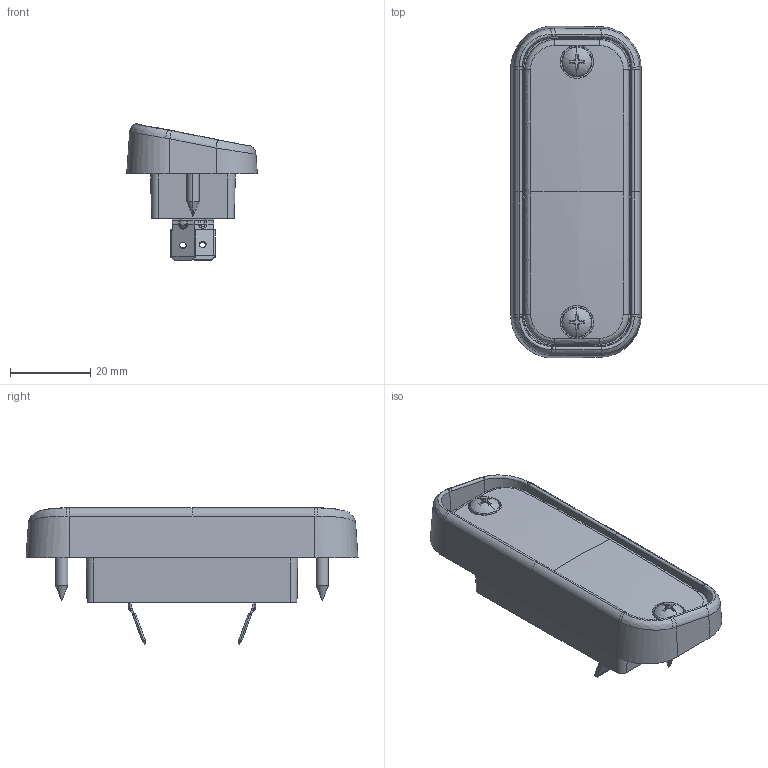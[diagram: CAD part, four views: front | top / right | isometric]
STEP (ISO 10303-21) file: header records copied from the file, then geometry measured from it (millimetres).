
FILE_DESCRIPTION(('CATIA V5 STEP Exchange','CAx-IF Rec.Pracs.--- Model Styling and Organization---1.5--- 2016-08-15','CAx-IF Rec.Pracs.---Supplemental Geometry---1.0---2011-11-01','CAx-IF Rec.Pracs.--- Composite Materials ---1.1---2010-07-15'),'2;1');
FILE_NAME('E:\tmp\ddx\2011206\HELLA_3D_data_LED_licence_plate_lamp_010-278_flush_mounting_2KA-010-278-31.stp','2022-01-18T07:28:37+00:00',('none'),('none'),'CATIA Version 5-6 Release 2020 SP3 HF9','CATIA V5 STEP AP214 Edition 3 v2','none');
FILE_SCHEMA(('AUTOMOTIVE_DESIGN { 1 0 10303 214 3 1 1 1 }'));
Length unit declared in the file: millimetre
Products named in the file (1): 10001955323_D10_001
Bounding box: 32.59 x 82.83 x 34.09 mm (x, y, z)
Volume: 28850.9 mm3; surface area: 12174.5 mm2
Topology: 1 solids, 1 shells, 292 faces, 729 edges, 450 vertices
Faces by surface type: bspline 152, plane 94, cylinder 34, cone 8, torus 4
Entity records: 15042 total; most frequent: CARTESIAN_POINT 9525, ORIENTED_EDGE 1450, EDGE_CURVE 725, DIRECTION 530, VERTEX_POINT 450, B_SPLINE_CURVE_WITH_KNOTS 447, EDGE_LOOP 311, ADVANCED_FACE 292
